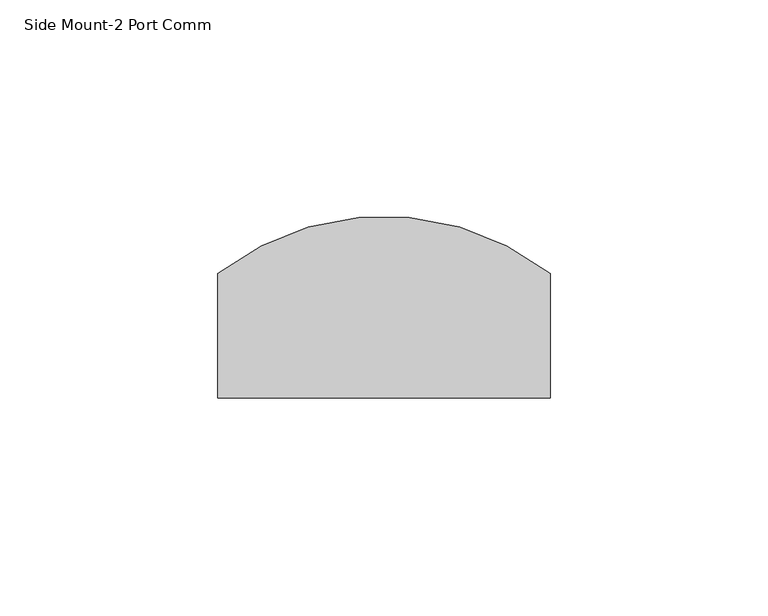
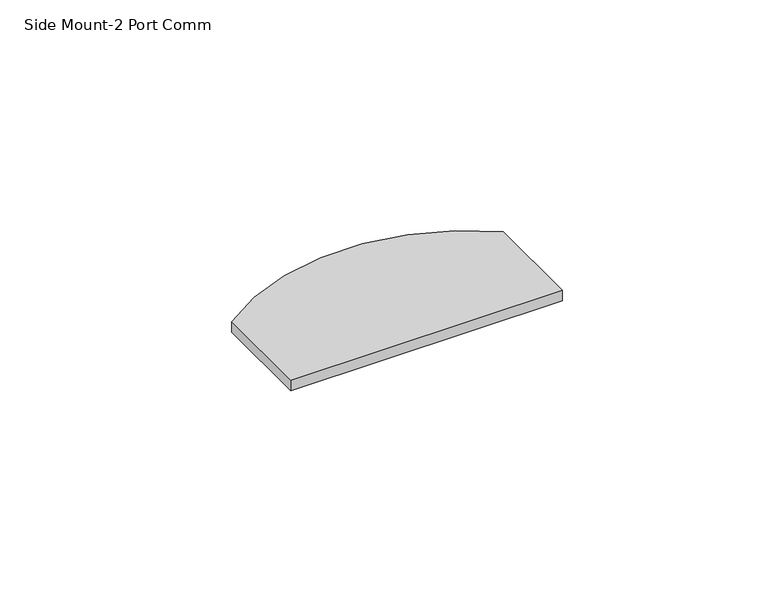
"""IFC4 building model written with IfcOpenShell, lengths in millimetres: proxy geometry, Device_Plate-Evolution_Poke_Thru_6AT_Series-Wiremold : Side Mount-2 Port Comm."""

from ifc_helpers import new_model, si_unit, point, frame_2d, origin, origin_with_axes, place, context, project, spatial, polyline, circle_curve, trimmed, segment, composite_curve, outline, extrude, source, transform, mapped, element, save


def side_mount_2_port_comm_af62ca1e(model_context):
    return source(origin(), model_context, "Body", "SweptSolid", [
        extrude(outline(composite_curve([segment(polyline([(38.1, 7.9670196), (38.1, -20.6375), (-38.1, -20.6375), (-38.1, 7.9670196)]), True, "CONTINUOUS"), segment(trimmed(circle_curve(frame_2d((0.0, -41.2491284)), 62.2401737), [point((-38.1, 7.9670196))], [point((38.1, 7.9670196))], False, "CARTESIAN"), True, "CONTINUOUS")], self_intersect=False)), origin_with_axes(), (0.0, 0.0, 1.0), 3.175),
    ])


if __name__ == "__main__":
    model = new_model("IFC4")
    model_context = context("Model", 3, world=origin())
    ifc_project = project(units=[si_unit("LENGTHUNIT", "METRE", prefix="MILLI")], contexts=[model_context])
    site = spatial("IfcSite", under=ifc_project)
    building = spatial("IfcBuilding", under=site)
    placement = place(None, origin())
    side_mount_2_port_comm_shape = side_mount_2_port_comm_af62ca1e(model_context)
    element("IfcBuildingElementProxy", 1, Name="Device_Plate-Evolution_Poke_Thru_6AT_Series-Wiremold : Side Mount-2 Port Comm", ObjectType="Device_Plate-Evolution_Poke_Thru_6AT_Series-Wiremold : Side Mount-2 Port Comm", at=placement, inside=building, context=model_context, shape_type="MappedRepresentation", body=[
        mapped(side_mount_2_port_comm_shape, transform((0.0, 0.0, 0.0), x_axis=(1.0, 0.0, 0.0), y_axis=(0.0, 1.0, 0.0), z_axis=(0.0, 0.0, 1.0))),
    ])
    save(model, "model.ifc")
